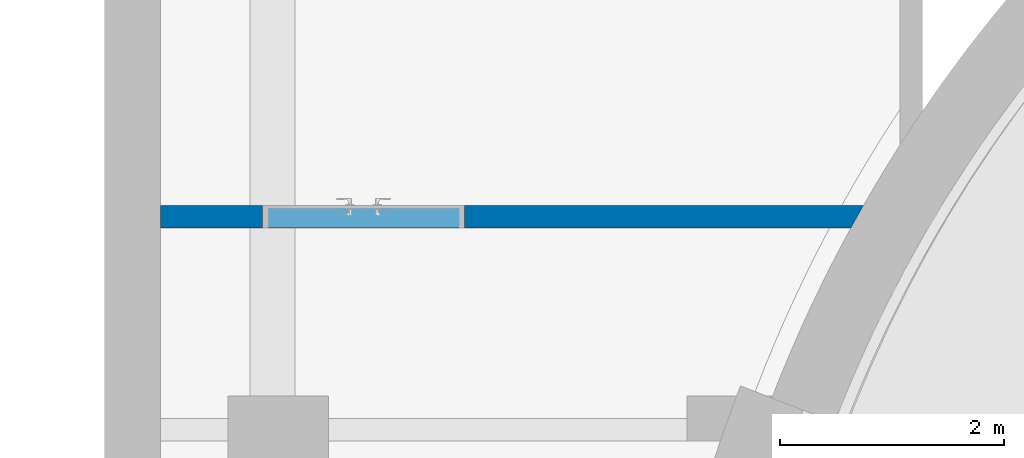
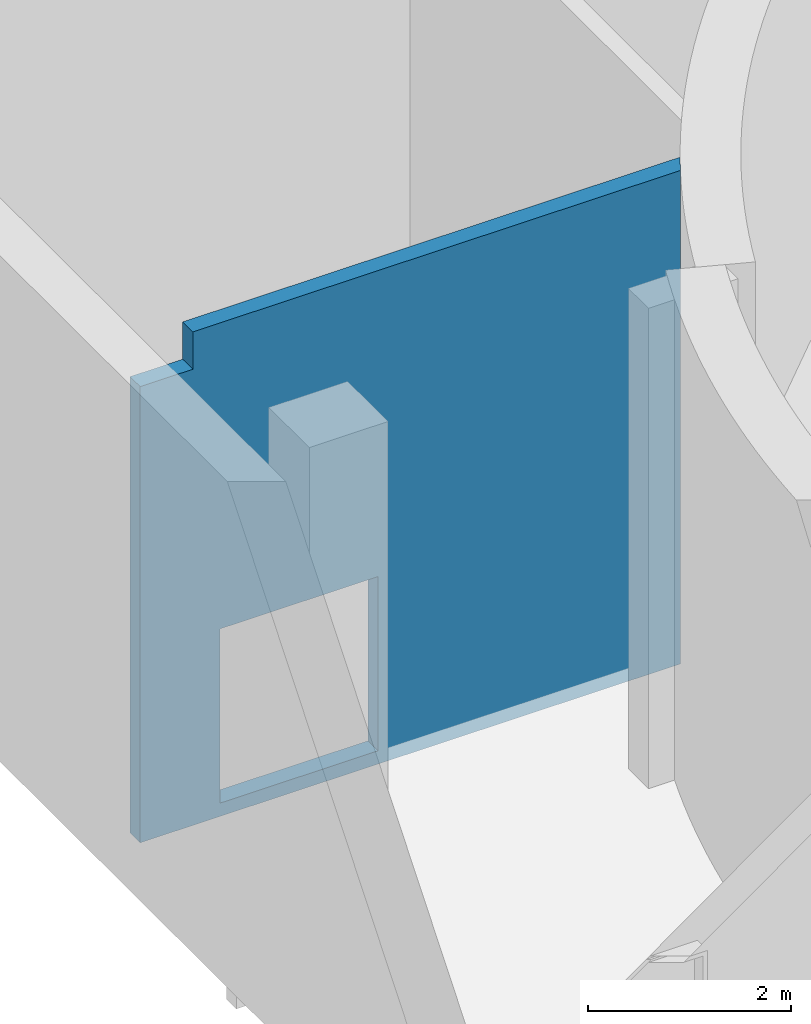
# One storey, part 22 of 29: 1 wall, 1 opening.
"""IFC2X3 building model written with IfcOpenShell, lengths in millimetres."""

from ifc_helpers import new_model, entity, si_unit, converted_unit, derived_unit, direction, frame, frame_2d, origin, place, context, subcontext, project, spatial, rectangle, extrude, faceted_brep, material, layer, layer_set, type_object, element, save


model = new_model("IFC2X3")

# Units and contexts
model_context = context("Model", 3, precision=0.01, world=origin(), true_north=direction((6.123031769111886e-17, 1.0)))
body_context = subcontext(model_context, "Body", "Model", "MODEL_VIEW")
ifc_project = project(units=[si_unit("LENGTHUNIT", "METRE", prefix="MILLI"), si_unit("AREAUNIT", "SQUARE_METRE"), si_unit("VOLUMEUNIT", "CUBIC_METRE"), converted_unit("PLANEANGLEUNIT", "DEGREE", entity("IfcRatioMeasure", 0.017453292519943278), si_unit("PLANEANGLEUNIT", "RADIAN"), dimensions=[0, 0, 0, 0, 0, 0, 0]), si_unit("MASSUNIT", "GRAM", prefix="KILO"), derived_unit("MASSDENSITYUNIT", [(si_unit("MASSUNIT", "GRAM", prefix="KILO"), 1), (si_unit("LENGTHUNIT", "METRE"), -3)]), derived_unit("MOMENTOFINERTIAUNIT", [(si_unit("LENGTHUNIT", "METRE"), 4)]), si_unit("TIMEUNIT", "SECOND"), si_unit("FREQUENCYUNIT", "HERTZ"), si_unit("THERMODYNAMICTEMPERATUREUNIT", "DEGREE_CELSIUS"), derived_unit("THERMALTRANSMITTANCEUNIT", [(si_unit("MASSUNIT", "GRAM", prefix="KILO"), 1), (si_unit("THERMODYNAMICTEMPERATUREUNIT", "KELVIN"), -1), (si_unit("TIMEUNIT", "SECOND"), -3)]), derived_unit("VOLUMETRICFLOWRATEUNIT", [(si_unit("LENGTHUNIT", "METRE"), 3), (si_unit("TIMEUNIT", "SECOND"), -1)]), derived_unit("MASSFLOWRATEUNIT", [(si_unit("MASSUNIT", "GRAM", prefix="KILO"), 1), (si_unit("TIMEUNIT", "SECOND"), -1)]), derived_unit("ROTATIONALFREQUENCYUNIT", [(si_unit("TIMEUNIT", "SECOND"), -1)]), si_unit("ELECTRICCURRENTUNIT", "AMPERE"), si_unit("ELECTRICVOLTAGEUNIT", "VOLT"), si_unit("POWERUNIT", "WATT"), si_unit("FORCEUNIT", "NEWTON", prefix="KILO"), si_unit("ILLUMINANCEUNIT", "LUX"), si_unit("LUMINOUSFLUXUNIT", "LUMEN"), si_unit("LUMINOUSINTENSITYUNIT", "CANDELA"), derived_unit("USERDEFINED", [(si_unit("MASSUNIT", "GRAM", prefix="KILO"), -1), (si_unit("LENGTHUNIT", "METRE"), -2), (si_unit("TIMEUNIT", "SECOND"), 3), (si_unit("LUMINOUSFLUXUNIT", "LUMEN"), 1)]), derived_unit("SOUNDPOWERUNIT", [(si_unit("MASSUNIT", "GRAM", prefix="KILO"), 1), (si_unit("LENGTHUNIT", "METRE"), 2), (si_unit("TIMEUNIT", "SECOND"), -3)]), derived_unit("SOUNDPRESSUREUNIT", [(si_unit("MASSUNIT", "GRAM", prefix="KILO"), 1), (si_unit("LENGTHUNIT", "METRE"), -1), (si_unit("TIMEUNIT", "SECOND"), -2)]), derived_unit("LINEARVELOCITYUNIT", [(si_unit("LENGTHUNIT", "METRE"), 1), (si_unit("TIMEUNIT", "SECOND"), -1)]), si_unit("PRESSUREUNIT", "PASCAL"), derived_unit("USERDEFINED", [(si_unit("LENGTHUNIT", "METRE"), -2), (si_unit("MASSUNIT", "GRAM", prefix="KILO"), 1), (si_unit("TIMEUNIT", "SECOND"), -2)]), derived_unit("LINEARFORCEUNIT", [(si_unit("MASSUNIT", "GRAM", prefix="KILO"), 1), (si_unit("LENGTHUNIT", "METRE"), 1), (si_unit("TIMEUNIT", "SECOND"), -2), (si_unit("LENGTHUNIT", "METRE"), -1)]), derived_unit("PLANARFORCEUNIT", [(si_unit("MASSUNIT", "GRAM", prefix="KILO"), 1), (si_unit("LENGTHUNIT", "METRE"), 1), (si_unit("TIMEUNIT", "SECOND"), -2), (si_unit("LENGTHUNIT", "METRE"), -2)])], contexts=[model_context])

# Site, building, storey
site_placement = place(None, frame((-14167.972527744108, -657.2125860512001, 0.0)))
site = spatial("IfcSite", under=ifc_project, at=site_placement, Name="Default", CompositionType="ELEMENT")
building_placement = place(site_placement, origin())
building = spatial("IfcBuilding", under=site, at=building_placement, Name="Sample Building", CompositionType="ELEMENT")
storey_placement = place(building_placement, frame((0.0, 0.0, -6100.0)))
storey = spatial("IfcBuildingStorey", under=building, at=storey_placement, Name="지하1층", CompositionType="ELEMENT", Elevation=-6099.999999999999)

# Wall, opening
ifc_material = material(Name="KBIMS-콘크리트")
ifc_layer = layer(ifc_material, 200.0)
ifc_layer_set = layer_set([ifc_layer], Name="기본 벽:WA111-철근콘크리트구조 벽 200mm_W1")
wall_type = type_object("IfcWallType", Name="기본 벽:WA111-철근콘크리트구조 벽 200mm_W1", PredefinedType="STANDARD", material=ifc_layer_set)
wall_placement = place(storey_placement, frame((19740.733489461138, 29357.212307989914, 0.0), z_axis=(0.0, 0.0, 1.0), x_axis=(-1.0, 0.0, 0.0)))
wall = element("IfcWall", 1, at=wall_placement, inside=storey, type_object=wall_type, Name="기본 벽:WA111-철근콘크리트구조 벽 200mm_W1", ObjectType="기본 벽:WA111-철근콘크리트구조 벽 200mm_W1", context=body_context, shape_type="Brep", body=[
    faceted_brep([(194.22189715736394, -100.0, 0.0), (0.0, -100.0, 5950.0), (0.0, -100.0, 4966.262229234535), (900.9477149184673, -100.0, 5950.0), (3561.1211855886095, -100.0, 2260.0), (3561.1211855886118, -100.0, 160.0), (6272.760998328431, -100.0, 0.0), (0.0, -100.0, 3982.524458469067), (0.0, -100.0, 2998.786687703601), (0.0, -100.0, 2015.0489169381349), (0.0, -100.0, 983.7377707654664), (0.0, -100.0, 0.0), (5361.1211855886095, -100.0, 160.0), (6272.760998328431, -100.0, 160.0), (5361.1211855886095, -100.0, 2260.0), (6272.760998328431, -100.0, 5500.0), (5672.735003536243, -100.0, 5500.0), (1384.3180153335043, -100.0, 5950.0), (5672.735003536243, -100.0, 5950.0), (1301.7597032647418, -100.0, 5950.0), (6272.760998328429, 100.0, 0.0), (5361.121185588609, 100.0, 160.0), (6272.760998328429, 100.0, 160.0), (3561.121185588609, 100.0, 160.0), (302.74898382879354, 100.0, 0.0), (3561.1211855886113, 100.0, 2260.0), (888.1977148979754, 100.0, 5950.0), (111.88125084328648, 100.0, 5950.0), (111.88125084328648, 100.0, 4966.262229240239), (111.88125084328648, 100.0, 3982.524458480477), (111.88125084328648, 100.0, 2975.0), (111.88125084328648, 100.0, 2231.2500000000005), (111.88125084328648, 100.0, 1487.4999999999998), (111.88125084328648, 100.0, 983.737770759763), (111.88125084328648, 100.0, 0.0), (1289.0097032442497, 100.0, 5950.0), (1371.5680153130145, 100.0, 5950.0), (5672.7350035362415, 100.0, 5500.0), (5672.7350035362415, 100.0, 5950.0), (5361.121185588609, 100.0, 2260.0), (6272.760998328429, 100.0, 5500.0), (56.39175031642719, -0.2523620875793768, 0.0), (56.3917503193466, -0.25236208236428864, 1235.6188852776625), (56.39175031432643, -0.25236209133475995, 3552.7327517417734), (56.391750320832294, -0.25236207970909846, 4474.393343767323), (63.99390051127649, 13.356911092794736, 5212.196671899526), (56.39175031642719, -0.2523620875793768, 5950.0), (56.007618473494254, -0.9389899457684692, 2603.1249999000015)], [[[0, 1, 2]], [[1, 0, 3]], [[3, 0, 4]], [[4, 0, 5]], [[5, 0, 6]], [[0, 2, 7]], [[0, 7, 8]], [[0, 8, 9]], [[0, 9, 10]], [[0, 10, 11]], [[12, 5, 6]], [[6, 13, 12]], [[12, 13, 14]], [[14, 13, 15]], [[16, 14, 15]], [[4, 16, 17]], [[18, 17, 16]], [[4, 14, 16]], [[4, 17, 19]], [[3, 4, 19]], [[20, 21, 22]], [[21, 20, 23]], [[23, 20, 24]], [[25, 23, 24]], [[25, 24, 26]], [[27, 26, 24]], [[24, 28, 27]], [[24, 29, 28]], [[24, 30, 29]], [[24, 31, 30]], [[24, 32, 31]], [[24, 33, 32]], [[24, 34, 33]], [[26, 35, 25]], [[36, 25, 35]], [[25, 36, 37]], [[38, 37, 36]], [[25, 37, 39]], [[39, 37, 40]], [[40, 22, 39]], [[22, 21, 39]], [[13, 6, 20, 22, 40, 15]], [[32, 33, 34, 41, 42, 31]], [[43, 44, 28, 29, 30]], [[2, 44, 43, 8, 7]], [[41, 11, 10, 9, 42]], [[2, 45, 44]], [[45, 46, 27]], [[45, 2, 1]], [[30, 31, 47]], [[43, 47, 8]], [[42, 47, 31]], [[47, 9, 8]], [[9, 47, 42]], [[45, 28, 44]], [[47, 43, 30]], [[28, 45, 27]], [[1, 46, 45]], [[4, 5, 23, 25]], [[14, 4, 25, 39]], [[12, 14, 39, 21]], [[5, 12, 21, 23]], [[0, 11, 41, 34, 24, 20, 6]], [[17, 18, 38, 36, 35, 26, 27, 46, 1, 3, 19]], [[16, 15, 40, 37]], [[18, 16, 37, 38]]]),
])
opening_placement = place(wall_placement, frame((5361.121185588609, 100.0, 160.0)))
element("IfcOpeningElement", 2, at=opening_placement, cuts=wall, Name="DR121-쌍여닫이문(철재, 방화문):DR121-쌍여닫이문(철재, 방화문) 1800x2100mm:1", ObjectType="Opening", context=body_context, shape_type="SweptSolid", body=[
    extrude(rectangle(XDim=2099.999999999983, YDim=1799.9999999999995, at=frame_2d((1049.9999999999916, 899.9999999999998), x_axis=(1.0, 0.0))), frame((0.0, 0.0, 0.0), z_axis=(0.0, -1.0, 0.0), x_axis=(0.0, 0.0, 1.0)), (0.0, 0.0, 1.0), 200.0),
])

save(model, "model.ifc")
